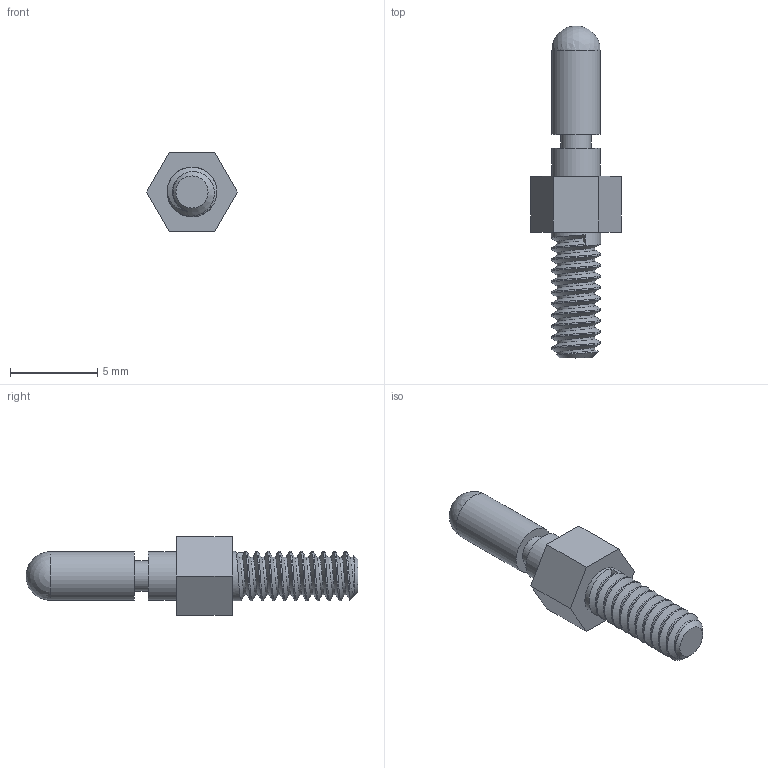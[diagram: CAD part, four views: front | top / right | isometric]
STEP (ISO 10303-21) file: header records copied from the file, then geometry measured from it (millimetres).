
FILE_DESCRIPTION (( 'STEP AP203' ), '1' );
FILE_NAME ('QLOCKPOST440-6.STEP', '2026-06-16T12:29:00', ( '' ), ( '' ), 'SwSTEP 2.0', 'SolidWorks 2020', '' );
FILE_SCHEMA (( 'CONFIG_CONTROL_DESIGN' ));
Length unit declared in the file: millimetre
Products named in the file (1): QLOCKPOST440-6
Bounding box: 5.2 x 19.01 x 4.5 mm (x, y, z)
Volume: 138.2 mm3; surface area: 244.6 mm2
Topology: 1 solids, 1 shells, 32 faces, 83 edges, 55 vertices
Faces by surface type: cylinder 14, plane 13, bspline 3, sphere 1, cone 1
Full cylindrical faces by diameter (mm): 1.75 x1, 2.8 x2, 2.845 x10
Entity records: 1995 total; most frequent: CARTESIAN_POINT 1498, ORIENTED_EDGE 82, DIRECTION 78, EDGE_CURVE 41, EDGE_LOOP 31, AXIS2_PLACEMENT_3D 30, VERTEX_POINT 30, FACE_OUTER_BOUND 26
